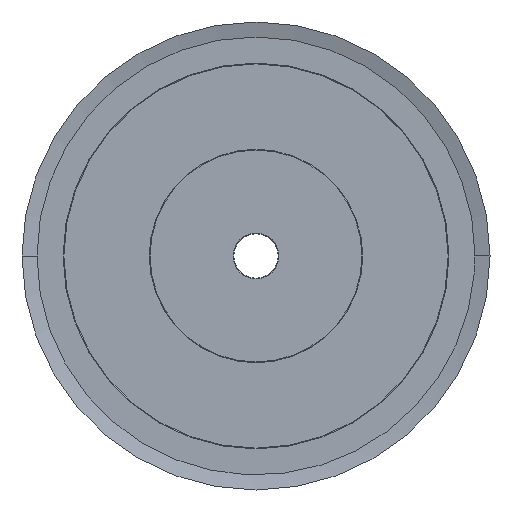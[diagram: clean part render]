
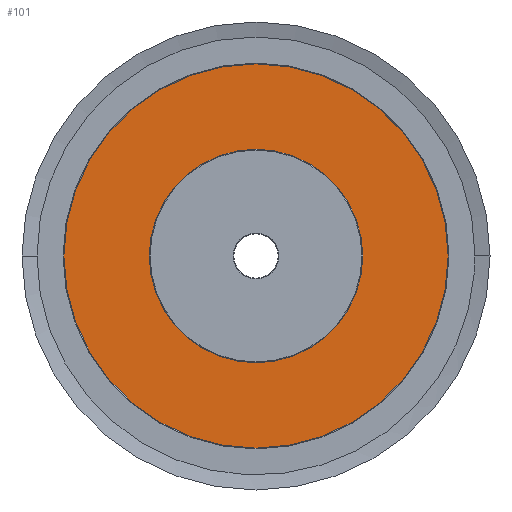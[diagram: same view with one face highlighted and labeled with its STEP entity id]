
A CAD part, left-side view. The second image highlights one B-rep face of the part: STEP entity #101.
In plain terms, the highlighted planar face has unit normal (-1, 0, 0).
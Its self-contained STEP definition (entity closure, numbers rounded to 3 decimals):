
#101=ADVANCED_FACE('',(#618,#619),#620,.T.);
#618=FACE_BOUND('',#1600,.T.);
#619=FACE_OUTER_BOUND('',#1601,.T.);
#620=PLANE('',#1602);
#1600=EDGE_LOOP('',(#3103,#3104));
#1601=EDGE_LOOP('',(#3105,#3106,#3107));
#1602=AXIS2_PLACEMENT_3D('',#3108,#3109,#3110);
#3103=ORIENTED_EDGE('',*,*,#7314,.T.);
#3104=ORIENTED_EDGE('',*,*,#7299,.T.);
#3105=ORIENTED_EDGE('',*,*,#7320,.F.);
#3106=ORIENTED_EDGE('',*,*,#7321,.F.);
#3107=ORIENTED_EDGE('',*,*,#7268,.F.);
#3108=CARTESIAN_POINT('',(28.0,0.0,0.0));
#3109=DIRECTION('',(-1.0,0.0,0.0));
#3110=DIRECTION('',(0.0,0.0,1.0));
#7268=EDGE_CURVE('',#9102,#9105,#9106,.T.);
#7299=EDGE_CURVE('',#9157,#9160,#9162,.T.);
#7314=EDGE_CURVE('',#9160,#9157,#9185,.T.);
#7320=EDGE_CURVE('',#9191,#9102,#9192,.T.);
#7321=EDGE_CURVE('',#9105,#9191,#9193,.T.);
#9102=VERTEX_POINT('',#13804);
#9105=VERTEX_POINT('',#13808);
#9106=CIRCLE('',#13809,121.5);
#9157=VERTEX_POINT('',#13873);
#9160=VERTEX_POINT('',#13877);
#9162=CIRCLE('',#13880,67.5);
#9185=CIRCLE('',#13909,67.5);
#9191=VERTEX_POINT('',#13915);
#9192=CIRCLE('',#13916,121.5);
#9193=CIRCLE('',#13917,121.5);
#13804=CARTESIAN_POINT('',(28.0,121.5,0.));
#13808=CARTESIAN_POINT('',(28.0,-121.5,0.));
#13809=AXIS2_PLACEMENT_3D('',#18458,#18459,#18460);
#13873=CARTESIAN_POINT('',(28.0,0.,-67.5));
#13877=CARTESIAN_POINT('',(28.0,0.,67.5));
#13880=AXIS2_PLACEMENT_3D('',#18521,#18522,#18523);
#13909=AXIS2_PLACEMENT_3D('',#18554,#18555,#18556);
#13915=CARTESIAN_POINT('',(28.0,0.0,-121.5));
#13916=AXIS2_PLACEMENT_3D('',#18572,#18573,#18574);
#13917=AXIS2_PLACEMENT_3D('',#18575,#18576,#18577);
#18458=CARTESIAN_POINT('',(28.0,0.0,0.0));
#18459=DIRECTION('',(1.0,0.0,0.0));
#18460=DIRECTION('',(0.0,1.0,0.0));
#18521=CARTESIAN_POINT('',(28.0,0.0,0.0));
#18522=DIRECTION('',(1.0,0.0,0.0));
#18523=DIRECTION('',(0.0,0.0,-1.0));
#18554=CARTESIAN_POINT('',(28.0,0.0,0.0));
#18555=DIRECTION('',(1.0,0.0,0.0));
#18556=DIRECTION('',(0.0,0.0,-1.0));
#18572=CARTESIAN_POINT('',(28.0,0.0,0.0));
#18573=DIRECTION('',(1.0,0.0,0.0));
#18574=DIRECTION('',(0.0,1.0,0.0));
#18575=CARTESIAN_POINT('',(28.0,0.0,0.0));
#18576=DIRECTION('',(1.0,0.0,0.0));
#18577=DIRECTION('',(0.0,1.0,0.0));
